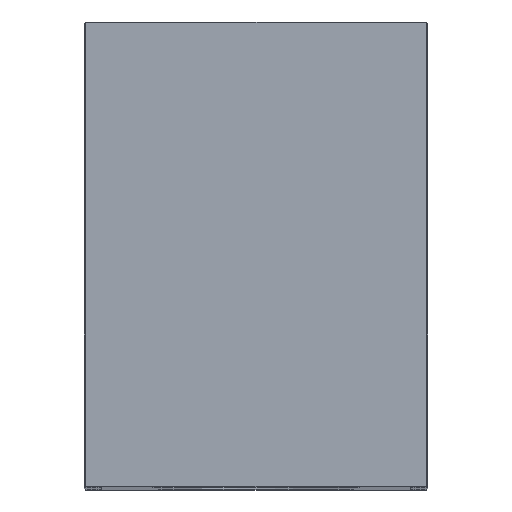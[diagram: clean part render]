
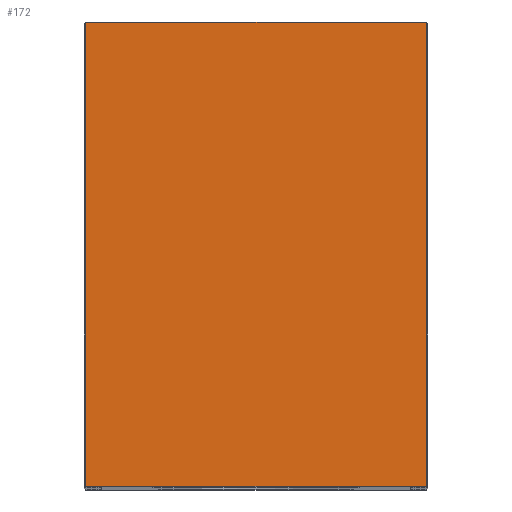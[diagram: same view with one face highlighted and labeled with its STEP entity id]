
A CAD part, top view. The second image highlights one B-rep face of the part: STEP entity #172.
In plain terms, the highlighted planar face has unit normal (0, 0, 1).
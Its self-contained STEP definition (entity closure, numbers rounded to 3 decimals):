
#93 = EDGE_CURVE ( 'NONE', #922, #953, #1093, .T. ) ;
#110 = EDGE_CURVE ( 'NONE', #953, #977, #1136, .T. ) ;
#129 = EDGE_CURVE ( 'NONE', #583, #922, #1190, .T. ) ;
#134 = EDGE_CURVE ( 'NONE', #977, #583, #1202, .T. ) ;
#172 = ADVANCED_FACE ( 'NONE', ( #1337 ), #726, .T. ) ;
#219 = ORIENTED_EDGE ( 'NONE', *, *, #93, .T. ) ;
#535 = EDGE_LOOP ( 'NONE', ( #219, #965, #955, #915 ) ) ;
#583 = VERTEX_POINT ( 'NONE', #793 ) ;
#726 = PLANE ( 'NONE',  #1340 ) ;
#727 = CARTESIAN_POINT ( 'NONE',  ( 0., 0., 65. ) ) ;
#728 = DIRECTION ( 'NONE',  ( 0., 0., 1. ) ) ;
#729 = DIRECTION ( 'NONE',  ( 1., 0., 0. ) ) ;
#793 = CARTESIAN_POINT ( 'NONE',  ( 11., 15., 65. ) ) ;
#826 = CARTESIAN_POINT ( 'NONE',  ( -11., 15., 65. ) ) ;
#838 = CARTESIAN_POINT ( 'NONE',  ( -11., -15., 65. ) ) ;
#841 = CARTESIAN_POINT ( 'NONE',  ( 11., -15., 65. ) ) ;
#915 = ORIENTED_EDGE ( 'NONE', *, *, #129, .T. ) ;
#922 = VERTEX_POINT ( 'NONE', #826 ) ;
#953 = VERTEX_POINT ( 'NONE', #838 ) ;
#955 = ORIENTED_EDGE ( 'NONE', *, *, #134, .T. ) ;
#965 = ORIENTED_EDGE ( 'NONE', *, *, #110, .T. ) ;
#977 = VERTEX_POINT ( 'NONE', #841 ) ;
#1093 = LINE ( 'NONE', #1094, #1501 ) ;
#1094 = CARTESIAN_POINT ( 'NONE',  ( -11., 15., 65. ) ) ;
#1095 = DIRECTION ( 'NONE',  ( 0., -1., 0. ) ) ;
#1136 = LINE ( 'NONE', #1137, #1519 ) ;
#1137 = CARTESIAN_POINT ( 'NONE',  ( -11., -15., 65. ) ) ;
#1138 = DIRECTION ( 'NONE',  ( 1., 0., 0. ) ) ;
#1190 = LINE ( 'NONE', #1191, #1491 ) ;
#1191 = CARTESIAN_POINT ( 'NONE',  ( -11., 15., 65. ) ) ;
#1192 = DIRECTION ( 'NONE',  ( -1., 0., 0. ) ) ;
#1202 = LINE ( 'NONE', #1203, #1495 ) ;
#1203 = CARTESIAN_POINT ( 'NONE',  ( 11., 15., 65. ) ) ;
#1204 = DIRECTION ( 'NONE',  ( 0., 1., 0. ) ) ;
#1337 = FACE_OUTER_BOUND ( 'NONE', #535, .T. ) ;
#1340 = AXIS2_PLACEMENT_3D ( 'NONE', #727, #728, #729 ) ;
#1491 = VECTOR ( 'NONE', #1192, 1000. ) ;
#1495 = VECTOR ( 'NONE', #1204, 1000. ) ;
#1501 = VECTOR ( 'NONE', #1095, 1000. ) ;
#1519 = VECTOR ( 'NONE', #1138, 1000. ) ;
